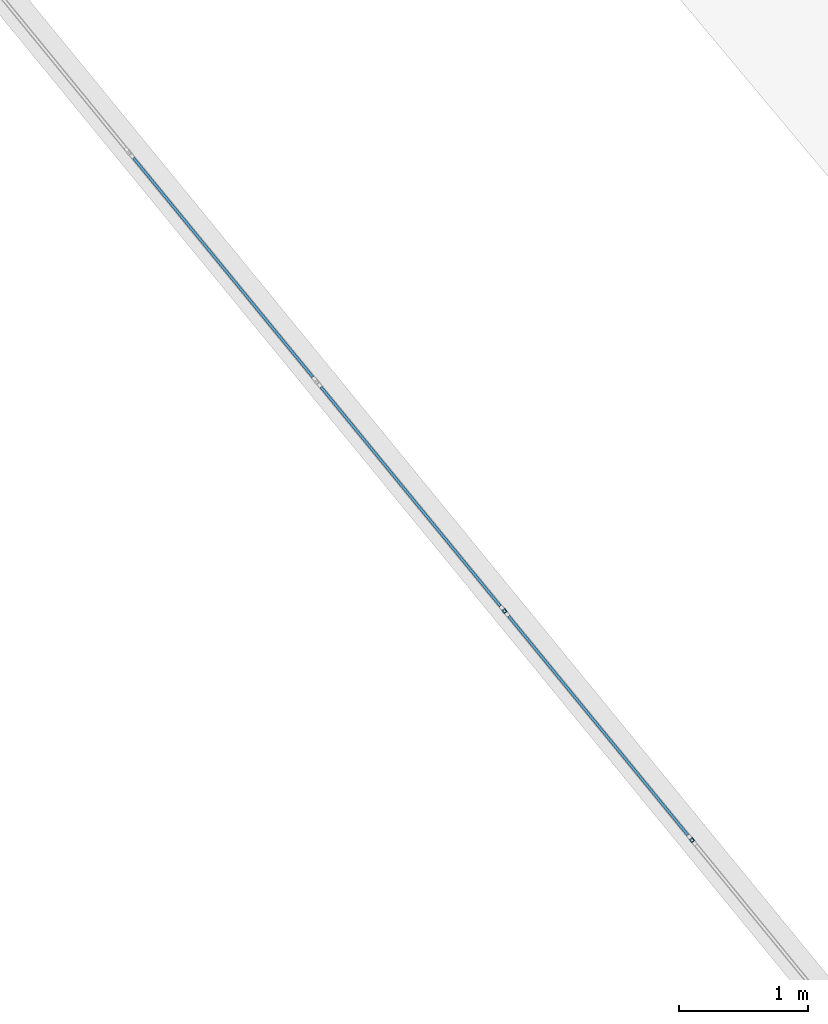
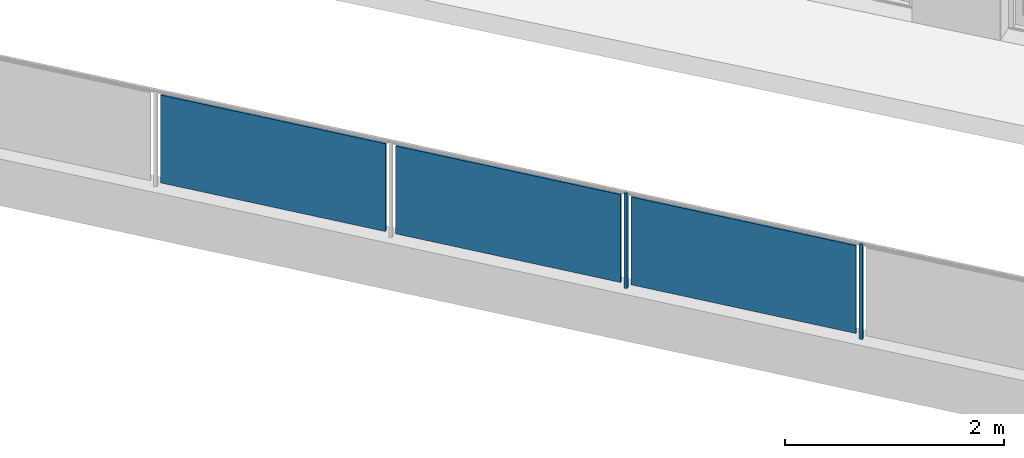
# One storey, part 19 of 67: 5 building element parts, 1 element without a shape of its own.
"""IFC4 building model written with IfcOpenShell, lengths in metres."""

from ifc_helpers import new_model, entity, si_unit, converted_unit, derived_unit, direction, frame, origin_with_axes, place, context, subcontext, project, spatial, polygons, material, type_object, element, aggregate, save


model = new_model("IFC4")

# Units and contexts
model_context = context("Model", 3, precision=1e-05, world=origin_with_axes(), true_north=direction((0.0, 1.0)))
body_context = subcontext(model_context, "Body", "Model", "MODEL_VIEW")
ifc_project = project(units=[si_unit("LENGTHUNIT", "METRE"), si_unit("AREAUNIT", "SQUARE_METRE"), si_unit("VOLUMEUNIT", "CUBIC_METRE"), converted_unit("PLANEANGLEUNIT", "DEGREE", entity("IfcPlaneAngleMeasure", 0.0174532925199), si_unit("PLANEANGLEUNIT", "RADIAN"), dimensions=[0, 0, 0, 0, 0, 0, 0]), converted_unit("TIMEUNIT", "Year", entity("IfcTimeMeasure", 31556926.0), si_unit("TIMEUNIT", "SECOND"), dimensions=[0, 0, 1, 0, 0, 0, 0]), si_unit("MASSUNIT", "GRAM", prefix="KILO"), si_unit("THERMODYNAMICTEMPERATUREUNIT", "DEGREE_CELSIUS"), si_unit("LUMINOUSINTENSITYUNIT", "LUMEN"), si_unit("ENERGYUNIT", "JOULE", prefix="MEGA"), derived_unit("THERMALCONDUCTANCEUNIT", [(si_unit("POWERUNIT", "WATT"), 1), (si_unit("LENGTHUNIT", "METRE"), -1), (si_unit("THERMODYNAMICTEMPERATUREUNIT", "KELVIN"), -1)]), derived_unit("SPECIFICHEATCAPACITYUNIT", [(si_unit("ENERGYUNIT", "JOULE"), 1), (si_unit("MASSUNIT", "GRAM", prefix="KILO"), -1), (si_unit("THERMODYNAMICTEMPERATUREUNIT", "KELVIN"), -1)]), derived_unit("MASSDENSITYUNIT", [(si_unit("MASSUNIT", "GRAM", prefix="KILO"), 1), (si_unit("VOLUMEUNIT", "CUBIC_METRE"), -1)])], contexts=[model_context])

# Site, building, storey
site_placement = place(None, frame((-0.00153261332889, -0.00661245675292, 0.0), z_axis=(0.0, 0.0, 1.0), x_axis=(1.0, 0.0, 0.0)))
site = spatial("IfcSite", under=ifc_project, at=site_placement, Name="Site", CompositionType="ELEMENT")
building_placement = place(site_placement, origin_with_axes())
building = spatial("IfcBuilding", under=site, at=building_placement, Name="Building", CompositionType="ELEMENT")
storey_placement = place(building_placement, frame((0.0, 0.0, -0.22), z_axis=(0.0, 0.0, 1.0), x_axis=(1.0, 0.0, 0.0)))
storey = spatial("IfcBuildingStorey", under=building, at=storey_placement, Name="EG", CompositionType="ELEMENT", Elevation=-0.22)

# Railing, building element parts
railing_type = type_object("IfcRailingType", Name="Geländerart", PredefinedType="NOTDEFINED")
railing_placement = place(storey_placement, frame((-12.1608341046, 23.557810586, 0.523948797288), z_axis=(0.0, 0.0, 1.0), x_axis=(1.0, 0.0, 0.0)))
railing = element("IfcRailing", 1, at=railing_placement, inside=storey, type_object=railing_type, Name="Geländer - 001", PredefinedType="NOTDEFINED")
ifc_material_1 = material(Name="Zaun")
building_element_part_1_placement = place(railing_placement, origin_with_axes())
building_element_part_1 = element("IfcBuildingElementPart", 2, at=building_element_part_1_placement, material=ifc_material_1, Name="Zaun", PredefinedType="NOTDEFINED", context=body_context, shape_type="Tessellation", body=[
    polygons([(1.97196248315, -10.9307596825, 0.05), (0.581046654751, -9.2318628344, 0.05), (0.581046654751, -9.2318628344, 1.03), (1.97196248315, -10.9307596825, 1.03), (0.56557156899, -9.24453255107, 0.05), (1.95648739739, -10.9434293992, 0.05), (0.56557156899, -9.24453255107, 1.03), (1.95648739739, -10.9434293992, 1.03)], [[[1, 2, 3, 4]], [[5, 2, 1, 6]], [[7, 3, 2, 5]], [[4, 3, 7, 8]], [[1, 4, 8, 6]], [[7, 5, 6, 8]]], closed=True),
])
building_element_part_2_placement = place(railing_placement, origin_with_axes())
building_element_part_2 = element("IfcBuildingElementPart", 3, at=building_element_part_2_placement, material=ifc_material_1, Name="Zaun", PredefinedType="NOTDEFINED", context=body_context, shape_type="Tessellation", body=[
    polygons([(3.42622689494, -12.7070319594, 0.05), (2.03531106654, -11.0081351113, 0.05), (2.03531106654, -11.0081351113, 1.03), (3.42622689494, -12.7070319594, 1.03), (2.01983598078, -11.020804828, 0.05), (3.41075180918, -12.7197016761, 0.05), (2.01983598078, -11.020804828, 1.03), (3.41075180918, -12.7197016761, 1.03)], [[[1, 2, 3, 4]], [[5, 2, 1, 6]], [[7, 3, 2, 5]], [[4, 3, 7, 8]], [[1, 4, 8, 6]], [[7, 5, 6, 8]]], closed=True),
])
ifc_material_2 = material(Name="Aluminium")
building_element_part_3_placement = place(railing_placement, origin_with_axes())
building_element_part_3 = element("IfcBuildingElementPart", 4, at=building_element_part_3_placement, material=ifc_material_2, Name="Aluminium", PredefinedType="NOTDEFINED", context=body_context, shape_type="Tessellation", body=[
    polygons([(3.44805961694, -12.773163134, 0.0), (3.47127224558, -12.754158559, 0.0), (3.47127224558, -12.754158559, 1.06), (3.44805961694, -12.773163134, 1.06), (3.42905504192, -12.7499505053, 0.0), (3.45226767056, -12.7309459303, 0.0), (3.44876095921, -12.7661269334, 0.0), (3.46423604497, -12.7534572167, 0.0), (3.45156632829, -12.7379821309, 0.0), (3.43609124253, -12.7506518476, 0.0), (3.45226767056, -12.7309459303, 1.06), (3.42905504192, -12.7499505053, 1.06), (3.44876095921, -12.7661269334, 1.06), (3.43609124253, -12.7506518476, 1.06), (3.45156632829, -12.7379821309, 1.06), (3.46423604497, -12.7534572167, 1.06)], [[[1, 2, 3, 4]], [[1, 5, 6, 2], [7, 8, 9, 10]], [[2, 6, 11, 3]], [[4, 3, 11, 12], [13, 14, 15, 16]], [[5, 1, 4, 12]], [[6, 5, 12, 11]], [[8, 7, 13, 16]], [[9, 8, 16, 15]], [[10, 9, 15, 14]], [[7, 10, 14, 13]]], closed=True),
])
building_element_part_4_placement = place(railing_placement, origin_with_axes())
building_element_part_4 = element("IfcBuildingElementPart", 5, at=building_element_part_4_placement, material=ifc_material_1, Name="Zaun", PredefinedType="NOTDEFINED", context=body_context, shape_type="Tessellation", body=[
    polygons([(4.88049130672, -14.4833042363, 0.05), (3.48957547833, -12.7844073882, 0.05), (3.48957547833, -12.7844073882, 1.03), (4.88049130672, -14.4833042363, 1.03), (3.47410039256, -12.7970771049, 0.05), (4.86501622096, -14.495973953, 0.05), (3.47410039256, -12.7970771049, 1.03), (4.86501622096, -14.495973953, 1.03)], [[[1, 2, 3, 4]], [[5, 2, 1, 6]], [[7, 3, 2, 5]], [[4, 3, 7, 8]], [[1, 4, 8, 6]], [[7, 5, 6, 8]]], closed=True),
])
building_element_part_5_placement = place(railing_placement, origin_with_axes())
building_element_part_5 = element("IfcBuildingElementPart", 6, at=building_element_part_5_placement, material=ifc_material_2, Name="Aluminium", PredefinedType="NOTDEFINED", context=body_context, shape_type="Tessellation", body=[
    polygons([(4.90232402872, -14.5494354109, 0.0), (4.92553665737, -14.5304308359, 0.0), (4.92553665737, -14.5304308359, 1.06), (4.90232402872, -14.5494354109, 1.06), (4.88331945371, -14.5262227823, 0.0), (4.90653208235, -14.5072182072, 0.0), (4.903025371, -14.5423992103, 0.0), (4.91850045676, -14.5297294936, 0.0), (4.90583074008, -14.5142544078, 0.0), (4.89035565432, -14.5269241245, 0.0), (4.90653208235, -14.5072182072, 1.06), (4.88331945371, -14.5262227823, 1.06), (4.903025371, -14.5423992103, 1.06), (4.89035565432, -14.5269241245, 1.06), (4.90583074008, -14.5142544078, 1.06), (4.91850045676, -14.5297294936, 1.06)], [[[1, 2, 3, 4]], [[1, 5, 6, 2], [7, 8, 9, 10]], [[2, 6, 11, 3]], [[4, 3, 11, 12], [13, 14, 15, 16]], [[5, 1, 4, 12]], [[6, 5, 12, 11]], [[8, 7, 13, 16]], [[9, 8, 16, 15]], [[10, 9, 15, 14]], [[7, 10, 14, 13]]], closed=True),
])
aggregate(railing, [building_element_part_1, building_element_part_2, building_element_part_3, building_element_part_4, building_element_part_5])

save(model, "model.ifc")
